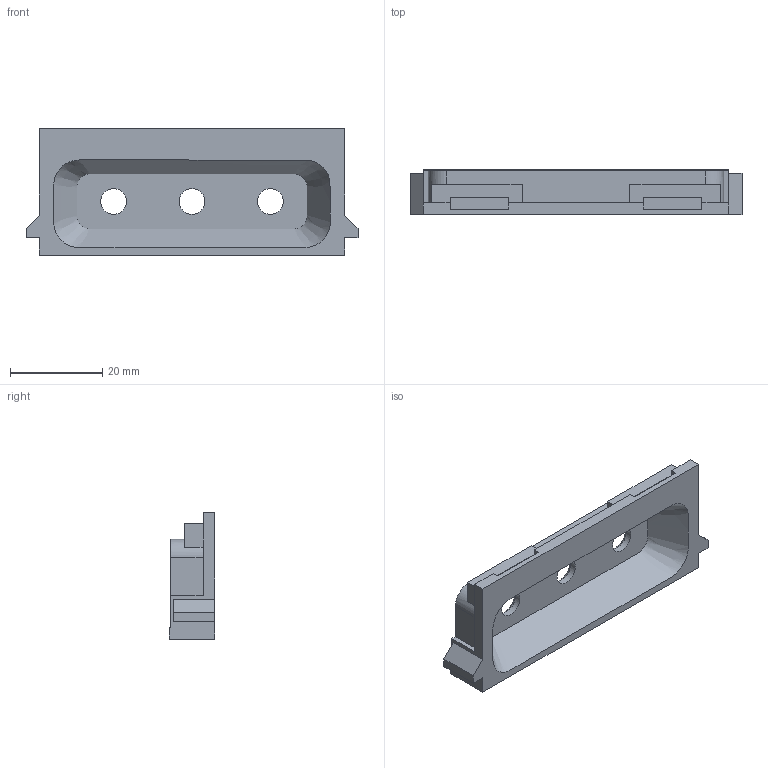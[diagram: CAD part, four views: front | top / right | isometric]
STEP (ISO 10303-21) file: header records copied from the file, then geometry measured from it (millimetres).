
FILE_DESCRIPTION(/* description */ (''),/* implementation_level */ '2;1');
FILE_NAME(/* name */ 'probe-fascia.step',/* time_stamp */ '2026-09-15T10:15:49-07:00',/* author */ (''),/* organization */ (''),/* preprocessor_version */ 'ST-DEVELOPER v20.2',/* originating_system */ 'Autodesk Translation Framework v15.15.0.0',/* authorisation */ '');
FILE_SCHEMA (('AUTOMOTIVE_DESIGN { 1 0 10303 214 3 1 1 }'));
Length unit declared in the file: centimetre
Products named in the file (1): 04 Probe fascia - fitted seams
Bounding box: 72 x 9.8 x 27.4 mm (x, y, z)
Volume: 8867.1 mm3; surface area: 6403.8 mm2
Topology: 1 solids, 1 shells, 58 faces, 162 edges, 107 vertices
Faces by surface type: plane 47, cylinder 7, cone 3, bspline 1
Full cylindrical faces by diameter (mm): 5.6 x3
Entity records: 2166 total; most frequent: CARTESIAN_POINT 608, ORIENTED_EDGE 324, DIRECTION 295, EDGE_CURVE 162, LINE 141, VECTOR 141, VERTEX_POINT 107, AXIS2_PLACEMENT_3D 77
